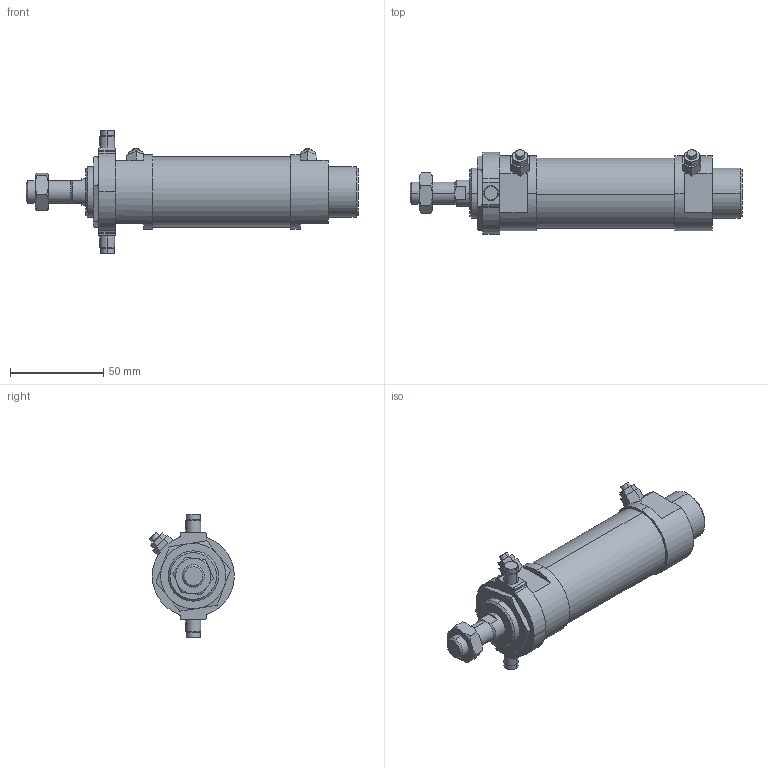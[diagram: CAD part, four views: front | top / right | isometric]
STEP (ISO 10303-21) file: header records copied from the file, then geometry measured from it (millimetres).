
FILE_DESCRIPTION (( 'STEP AP203' ), '1' );
FILE_NAME ('JG2-32-25-T.STEP', '2016-04-19T00:51:13', ( '' ), ( '' ), 'SwSTEP 2.0', 'SolidWorks 2014', '' );
FILE_SCHEMA (( 'CONFIG_CONTROL_DESIGN' ));
Length unit declared in the file: millimetre
Products named in the file (7): J#2-32-T; JG2-32-25-T; JG2-32B; M12x1.25-7mm; M27x2-3mm; JG2-32A; 32-25
Assembly tree (6 placements, depth 2):
  JG2-32-25-T
    JG2-32B
    32-25
    JG2-32A
    M12x1.25-7mm
    M27x2-3mm
    J#2-32-T
Bounding box: 178 x 45.33 x 66 mm (x, y, z)
Volume: 163643.9 mm3; surface area: 33973.2 mm2
Topology: 6 solids, 6 shells, 168 faces, 391 edges, 242 vertices
Faces by surface type: plane 77, cylinder 47, torus 24, cone 20
Entity records: 5888 total; most frequent: CARTESIAN_POINT 1350, DIRECTION 817, ORIENTED_EDGE 774, EDGE_CURVE 387, AXIS2_PLACEMENT_3D 317, VERTEX_POINT 242, EDGE_LOOP 185, VECTOR 183
